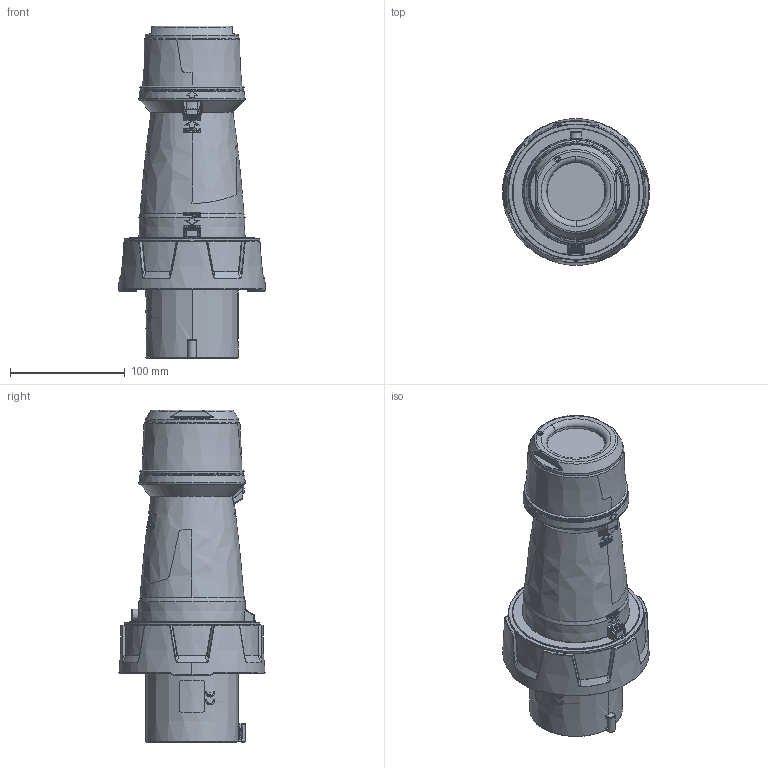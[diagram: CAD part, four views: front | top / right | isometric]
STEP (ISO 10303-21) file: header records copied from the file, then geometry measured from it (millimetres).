
FILE_DESCRIPTION((''),'2;1');
FILE_NAME('1115768_ASM_SW0001','2018-02-12T',('gisse'),('MENNEKES'),'PRO/ENGINEER BY PARAMETRIC TECHNOLOGY CORPORATION, 2015440','PRO/ENGINEER BY PARAMETRIC TECHNOLOGY CORPORATION, 2015440','');
FILE_SCHEMA(('AUTOMOTIVE_DESIGN { 1 0 10303 214 1 1 1 1 }'));
Products named in the file (1): 1115768_ASM_SW0001
Bounding box: 128 x 127.38 x 289.5 mm (x, y, z)
Volume: 1520891.6 mm3; surface area: 152321.6 mm2
Topology: 1 solids, 1 shells, 2759 faces, 7401 edges, 4754 vertices
Faces by surface type: plane 1077, extrusion 695, bspline 418, cylinder 286, cone 156, torus 101, sphere 26
Entity records: 139727 total; most frequent: CARTESIAN_POINT 42726, ORIENTED_EDGE 14802, DIRECTION 9668, EDGE_CURVE 7401, FILL_AREA_STYLE_COLOUR 5307, FILL_AREA_STYLE 5307, SURFACE_STYLE_FILL_AREA 5307, SURFACE_SIDE_STYLE 5307
